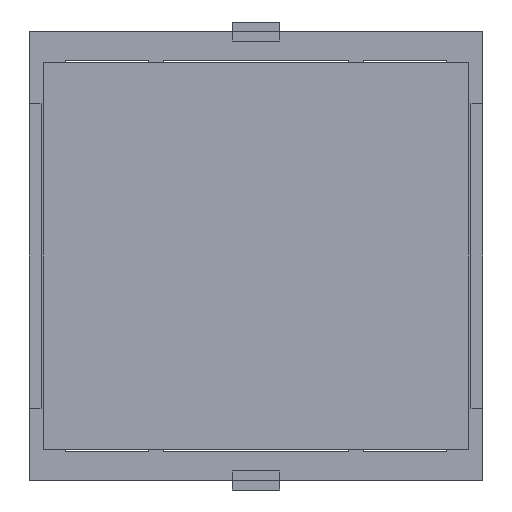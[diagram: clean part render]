
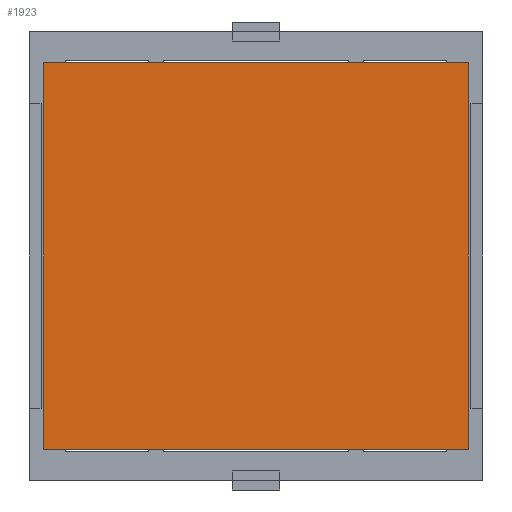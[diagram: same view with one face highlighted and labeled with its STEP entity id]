
A CAD part, front view. The second image highlights one B-rep face of the part: STEP entity #1923.
In plain terms, the highlighted planar face has unit normal (0, -1, 0).
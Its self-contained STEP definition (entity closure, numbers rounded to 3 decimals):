
#134 = CARTESIAN_POINT ( 'NONE',  ( -1.731, -17.438, 21.199 ) ) ;
#380 = DIRECTION ( 'NONE',  ( -1., 0., 0. ) ) ;
#479 = DIRECTION ( 'NONE',  ( 1., 0., 0. ) ) ;
#534 = CARTESIAN_POINT ( 'NONE',  ( -1.731, -17.438, 21.199 ) ) ;
#643 = CARTESIAN_POINT ( 'NONE',  ( 42.973, -17.438, -19.441 ) ) ;
#938 = EDGE_CURVE ( 'NONE', #1066, #1723, #6693, .T. ) ;
#1066 = VERTEX_POINT ( 'NONE', #4040 ) ;
#1232 = CARTESIAN_POINT ( 'NONE',  ( 42.973, -17.438, 21.199 ) ) ;
#1516 = ORIENTED_EDGE ( 'NONE', *, *, #7121, .F. ) ;
#1723 = VERTEX_POINT ( 'NONE', #134 ) ;
#1772 = DIRECTION ( 'NONE',  ( 0., 0., -1. ) ) ;
#1923 = ADVANCED_FACE ( 'NONE', ( #7675 ), #2083, .F. ) ;
#1953 = AXIS2_PLACEMENT_3D ( 'NONE', #2642, #5184, #3911 ) ;
#2083 = PLANE ( 'NONE',  #1953 ) ;
#2241 = CARTESIAN_POINT ( 'NONE',  ( -1.731, -17.438, -19.441 ) ) ;
#2459 = EDGE_CURVE ( 'NONE', #4208, #2466, #4396, .T. ) ;
#2466 = VERTEX_POINT ( 'NONE', #643 ) ;
#2545 = CARTESIAN_POINT ( 'NONE',  ( 42.973, -17.438, -19.441 ) ) ;
#2642 = CARTESIAN_POINT ( 'NONE',  ( -1.731, -17.438, 21.199 ) ) ;
#3449 = VECTOR ( 'NONE', #1772, 1000. ) ;
#3911 = DIRECTION ( 'NONE',  ( 0., 0., 1. ) ) ;
#4040 = CARTESIAN_POINT ( 'NONE',  ( -1.731, -17.438, -19.441 ) ) ;
#4208 = VERTEX_POINT ( 'NONE', #1232 ) ;
#4396 = LINE ( 'NONE', #2545, #3449 ) ;
#4867 = CARTESIAN_POINT ( 'NONE',  ( -1.731, -17.438, -19.441 ) ) ;
#5060 = LINE ( 'NONE', #534, #6815 ) ;
#5152 = ORIENTED_EDGE ( 'NONE', *, *, #938, .F. ) ;
#5184 = DIRECTION ( 'NONE',  ( 0., 1., 0. ) ) ;
#5361 = EDGE_CURVE ( 'NONE', #2466, #1066, #6145, .T. ) ;
#6005 = VECTOR ( 'NONE', #6035, 1000. ) ;
#6035 = DIRECTION ( 'NONE',  ( 0., 0., 1. ) ) ;
#6145 = LINE ( 'NONE', #2241, #7929 ) ;
#6693 = LINE ( 'NONE', #4867, #6005 ) ;
#6815 = VECTOR ( 'NONE', #479, 1000. ) ;
#7110 = ORIENTED_EDGE ( 'NONE', *, *, #5361, .F. ) ;
#7121 = EDGE_CURVE ( 'NONE', #1723, #4208, #5060, .T. ) ;
#7386 = EDGE_LOOP ( 'NONE', ( #5152, #7110, #8143, #1516 ) ) ;
#7675 = FACE_OUTER_BOUND ( 'NONE', #7386, .T. ) ;
#7929 = VECTOR ( 'NONE', #380, 1000. ) ;
#8143 = ORIENTED_EDGE ( 'NONE', *, *, #2459, .F. ) ;
